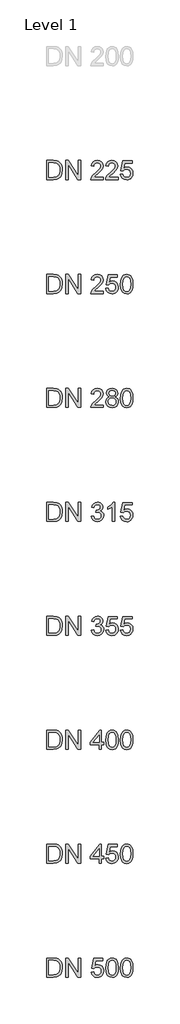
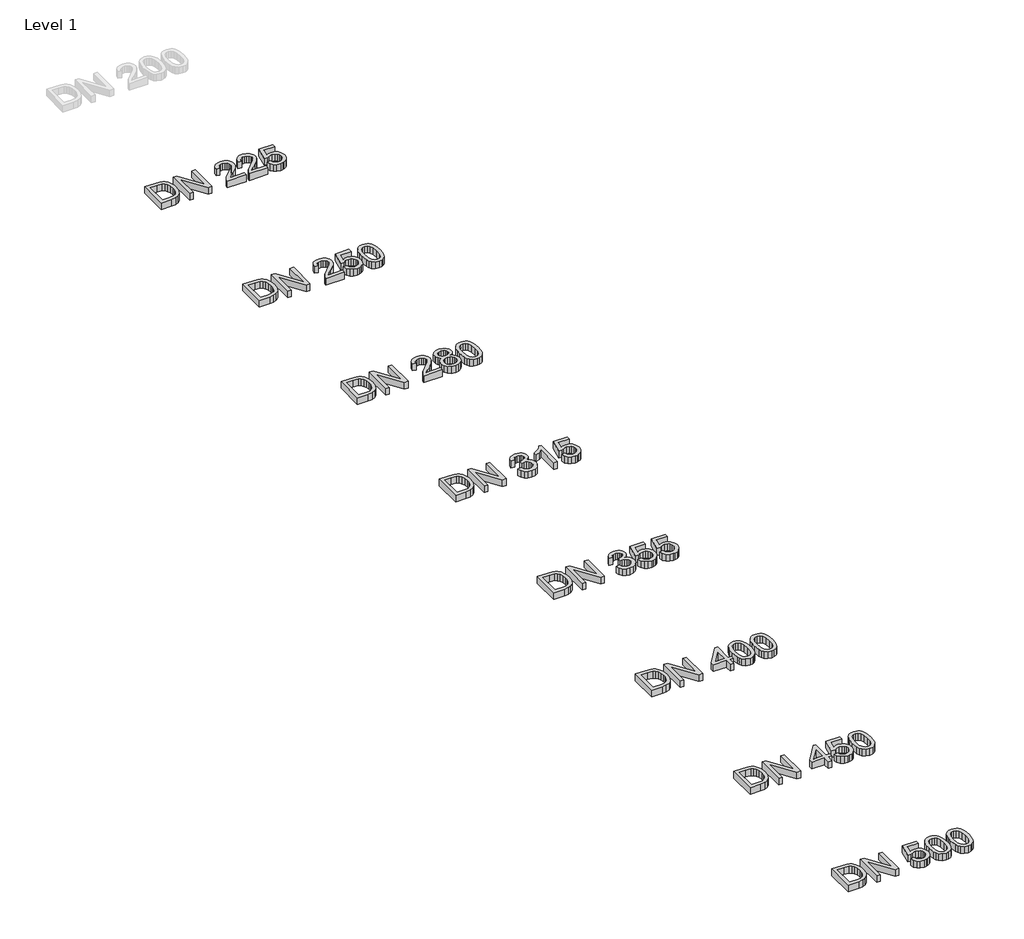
# One storey, part 11 of 26: 8 proxies.
"""IFC4 building model written with IfcOpenShell, lengths in millimetres."""

from ifc_helpers import new_model, si_unit, origin, origin_with_axes, place, context, project, spatial, polyline, outline, extrude, element, save

model = new_model("IFC4")

# Units and contexts
model_context = context("Model", 3, world=origin())
ifc_project = project(units=[si_unit("LENGTHUNIT", "METRE", prefix="MILLI")], contexts=[model_context])

# Site, building, storey
site = spatial("IfcSite", under=ifc_project)
building = spatial("IfcBuilding", under=site)
storey = spatial("IfcBuildingStorey", under=building, Name="Level 1", Elevation=0.0)

# Proxies
placement = place(None, origin())
element("IfcBuildingElementProxy", 1, Name="200mm Arial", ObjectType="200mm Arial", at=placement, inside=storey, context=model_context, shape_type="SweptSolid", body=[
    extrude(outline(polyline([(-19491.3116028, -54013.949573), (-19491.3116028, -53813.0369527), (-19422.0026349, -53813.0369527), (-19386.1464031, -53815.9309577), (-19370.1312736, -53821.5105013), (-19356.6177416, -53830.302881), (-19342.724065, -53845.606772), (-19332.8280393, -53864.6385338), (-19326.9051392, -53887.0302846), (-19324.9308391, -53912.4141423), (-19330.2773908, -53952.9547382), (-19344.0116519, -53982.2136195), (-19362.3567008, -54000.436041), (-19386.3671323, -54010.5160077), (-19418.6671715, -54013.949573), (-19491.3116028, -54013.949573)]), holes=[polyline([(-19466.1975253, -53988.8354954), (-19421.7573803, -53988.8354954), (-19389.4328156, -53985.2057264), (-19370.7934612, -53974.9540815), (-19362.0685265, -53964.0831685), (-19355.5140957, -53950.0116822), (-19351.4122114, -53932.6783089), (-19350.0449167, -53912.0217348), (-19352.7243239, -53884.6513144), (-19360.7625455, -53864.4423301), (-19372.6390025, -53850.5609162), (-19386.8331162, -53842.1732067), (-19422.4440933, -53838.1510302), (-19466.1975253, -53838.1510302), (-19466.1975253, -53988.8354954)])]), origin_with_axes(), (0.0, 0.0, 1.0), 50.0),
    extrude(outline(polyline([(-19290.3989825, -54013.949573), (-19290.3989825, -53813.0369527), (-19263.5190714, -53813.0369527), (-19158.5500754, -53972.2072292), (-19158.5500754, -53813.0369527), (-19133.4359979, -53813.0369527), (-19133.4359979, -54013.949573), (-19160.315909, -54013.949573), (-19265.284905, -53854.7302454), (-19265.284905, -54013.949573), (-19290.3989825, -54013.949573)])), origin_with_axes(), (0.0, 0.0, 1.0), 50.0),
    extrude(outline(polyline([(-18891.7130016, -53988.8354954), (-18891.7130016, -54013.949573), (-19023.5619087, -54013.949573), (-19020.8641074, -53996.6345937), (-19005.6092673, -53969.9754118), (-18974.1676195, -53940.8636832), (-18930.806595, -53899.0232377), (-18922.6764029, -53884.6022634), (-18919.9663388, -53870.5736967), (-18922.5231187, -53857.9982638), (-18930.1934583, -53847.5442838), (-18941.9840762, -53840.4993436), (-18956.9016912, -53838.1510302), (-18972.5673328, -53840.4441613), (-18984.7380955, -53847.3235546), (-18992.5923761, -53858.2496499), (-18995.3085714, -53872.6828868), (-19020.422649, -53869.5436271), (-19014.334202, -53845.2511527), (-19001.1701579, -53827.5069778), (-18981.6172299, -53816.6544589), (-18956.3621309, -53813.0369527), (-18930.9230909, -53817.0591291), (-18911.4069511, -53829.1256586), (-18898.9909337, -53847.1518763), (-18894.8522613, -53869.0531178), (-18899.3158962, -53892.8673456), (-18914.1538033, -53917.4909138), (-18950.1326624, -53951.9001431), (-18979.0236618, -53976.0577275), (-18990.3544272, -53988.8354954), (-18891.7130016, -53988.8354954)])), origin_with_axes(), (0.0, 0.0, 1.0), 50.0),
    extrude(outline(polyline([(-18866.5989241, -53960.5821582), (-18841.4848465, -53957.4428985), (-18836.8740589, -53972.5199289), (-18828.8297059, -53983.3172655), (-18817.3885758, -53989.8103827), (-18802.5874569, -53991.9747551), (-18784.5857646, -53988.9642541), (-18771.0967581, -53979.9327511), (-18762.6722604, -53965.9225785), (-18759.8640945, -53947.9760685), (-18762.4944508, -53931.0780222), (-18770.3855196, -53918.1531014), (-18783.5986146, -53909.9493329), (-18802.1950494, -53907.2147434), (-18824.2434437, -53911.5802764), (-18838.3455868, -53922.9110419), (-18863.4596644, -53919.7717822), (-18841.4848465, -53816.1762123), (-18744.1677961, -53816.1762123), (-18744.1677961, -53841.2902899), (-18821.1777604, -53841.2902899), (-18831.9199147, -53896.619742), (-18813.979536, -53885.7304349), (-18795.1807661, -53882.1006659), (-18771.7160261, -53886.601089), (-18752.2366745, -53900.1023582), (-18739.1216814, -53920.6792244), (-18734.750017, -53946.4064386), (-18738.6863543, -53971.5205162), (-18750.4953664, -53993.0048247), (-18760.9309523, -54003.5415782), (-18773.1078464, -54011.0678307), (-18787.0260485, -54015.5835821), (-18802.6855588, -54017.0888326), (-18827.3520466, -54013.2199403), (-18847.0030765, -54001.6132634), (-18860.4736888, -53983.6177025), (-18866.5989241, -53960.5821582)])), origin_with_axes(), (0.0, 0.0, 1.0), 50.0),
    extrude(outline(polyline([(-18712.7751992, -53915.1119436), (-18710.9296578, -53882.9529258), (-18705.3930338, -53857.3054194), (-18696.2205094, -53837.7770168), (-18683.4672669, -53823.9753106), (-18667.0413358, -53815.7715422), (-18646.8507456, -53813.0369527), (-18631.3751764, -53814.6556334), (-18617.5182879, -53819.5116758), (-18605.930005, -53827.4150073), (-18597.2602527, -53838.1755557), (-18585.4880288, -53867.9004209), (-18580.9262921, -53915.1119436), (-18582.7534393, -53947.0870203), (-18588.2348811, -53972.6732131), (-18597.3522232, -53992.2200098), (-18610.0870716, -54006.0768983), (-18626.5497909, -54014.335849), (-18646.8507456, -54017.0888326), (-18672.9458418, -54012.3063667), (-18692.7624186, -53997.9589689), (-18701.5180101, -53982.8298218), (-18707.772004, -53963.9789353), (-18712.7751992, -53915.1119436)]), holes=[polyline([(-18687.6611216, -53915.0628927), (-18684.7180657, -53954.5672876), (-18675.8888978, -53977.4311536), (-18662.7432478, -53988.3388547), (-18646.8507456, -53991.9747551), (-18630.9582434, -53988.326592), (-18617.8125935, -53977.3821026), (-18608.9834256, -53954.5059739), (-18606.0403696, -53915.0628927), (-18608.8853237, -53876.4475459), (-18617.420186, -53853.4058703), (-18630.5413105, -53841.9647402), (-18647.1450512, -53838.1510302), (-18662.8658751, -53841.5110191), (-18675.4964903, -53851.5909857), (-18684.6199638, -53876.0674012), (-18687.6611216, -53915.0628927)])]), origin_with_axes(), (0.0, 0.0, 1.0), 50.0),
])
element("IfcBuildingElementProxy", 2, Name="200mm Arial", ObjectType="200mm Arial", at=placement, inside=storey, context=model_context, shape_type="SweptSolid", body=[
    extrude(outline(polyline([(-19491.3116028, -56413.949573), (-19491.3116028, -56213.0369527), (-19422.0026349, -56213.0369527), (-19386.1464031, -56215.9309577), (-19370.1312736, -56221.5105013), (-19356.6177416, -56230.302881), (-19342.724065, -56245.606772), (-19332.8280393, -56264.6385338), (-19326.9051392, -56287.0302846), (-19324.9308391, -56312.4141423), (-19330.2773908, -56352.9547382), (-19344.0116519, -56382.2136195), (-19362.3567008, -56400.436041), (-19386.3671323, -56410.5160077), (-19418.6671715, -56413.949573), (-19491.3116028, -56413.949573)]), holes=[polyline([(-19466.1975253, -56388.8354954), (-19421.7573803, -56388.8354954), (-19389.4328156, -56385.2057264), (-19370.7934612, -56374.9540815), (-19362.0685265, -56364.0831685), (-19355.5140957, -56350.0116822), (-19351.4122114, -56332.6783089), (-19350.0449167, -56312.0217348), (-19352.7243239, -56284.6513144), (-19360.7625455, -56264.4423301), (-19372.6390025, -56250.5609162), (-19386.8331162, -56242.1732067), (-19422.4440933, -56238.1510302), (-19466.1975253, -56238.1510302), (-19466.1975253, -56388.8354954)])]), origin_with_axes(), (0.0, 0.0, 1.0), 50.0),
    extrude(outline(polyline([(-19290.3989825, -56413.949573), (-19290.3989825, -56213.0369527), (-19263.5190714, -56213.0369527), (-19158.5500754, -56372.2072292), (-19158.5500754, -56213.0369527), (-19133.4359979, -56213.0369527), (-19133.4359979, -56413.949573), (-19160.315909, -56413.949573), (-19265.284905, -56254.7302454), (-19265.284905, -56413.949573), (-19290.3989825, -56413.949573)])), origin_with_axes(), (0.0, 0.0, 1.0), 50.0),
    extrude(outline(polyline([(-19020.422649, -56360.5821582), (-18995.3085714, -56357.4428985), (-18989.6861083, -56373.2250361), (-18981.451683, -56383.8813512), (-18970.2006253, -56389.9514041), (-18955.528265, -56391.9747551), (-18938.3113877, -56389.1911147), (-18925.0185849, -56380.8401934), (-18916.5205108, -56368.3812565), (-18913.6878195, -56353.2735692), (-18916.4959853, -56338.9323028), (-18924.920483, -56327.3011004), (-18937.6737255, -56319.5939726), (-18953.4681259, -56317.02493), (-18971.0774107, -56319.7717822), (-18968.2815075, -56294.6577047), (-18964.2593311, -56294.9520102), (-18949.2129575, -56293.1493885), (-18935.7607392, -56287.7415231), (-18926.2693837, -56278.5935242), (-18923.1055985, -56265.5705016), (-18925.3987296, -56254.7241141), (-18932.2781229, -56245.925603), (-18942.7750225, -56240.0946734), (-18955.9206725, -56238.1510302), (-18969.0908479, -56240.1130675), (-18979.8575277, -56245.9991794), (-18987.7179396, -56255.809366), (-18992.1693118, -56269.5436271), (-19017.2833893, -56266.4043674), (-19009.8889612, -56243.8532011), (-18996.7310485, -56227.0164685), (-18978.7293562, -56216.5318316), (-18956.8035893, -56213.0369527), (-18941.0153203, -56214.7598667), (-18926.5146384, -56219.9286087), (-18914.2886934, -56228.0833263), (-18905.3246354, -56238.7641669), (-18899.8247996, -56251.0698196), (-18897.991521, -56264.0989736), (-18899.7328291, -56276.2390794), (-18904.9567534, -56287.2510138), (-18913.5897176, -56296.6320047), (-18925.5581452, -56303.87928), (-18909.8373212, -56310.2313758), (-18898.1877247, -56321.0471064), (-18890.9772376, -56335.7378608), (-18888.5737419, -56353.7150276), (-18893.3807333, -56378.191443), (-18907.8017075, -56398.645682), (-18929.5680589, -56412.478045), (-18956.4111818, -56417.0888326), (-18980.6913935, -56413.1524953), (-19000.4589194, -56401.3434833), (-19014.2054433, -56383.2804773), (-19020.422649, -56360.5821582)])), origin_with_axes(), (0.0, 0.0, 1.0), 50.0),
    extrude(outline(polyline([(-18772.4211333, -56413.949573), (-18797.5352108, -56413.949573), (-18797.5352108, -56257.3789958), (-18821.3249132, -56274.3260931), (-18847.7633659, -56287.0057592), (-18847.7633659, -56263.2651077), (-18810.9506409, -56239.769711), (-18797.4800285, -56226.1948653), (-18788.6079411, -56213.0369527), (-18772.4211333, -56213.0369527), (-18772.4211333, -56413.949573)])), origin_with_axes(), (0.0, 0.0, 1.0), 50.0),
    extrude(outline(polyline([(-18712.7751992, -56360.5821582), (-18687.6611216, -56357.4428985), (-18683.0503339, -56372.5199289), (-18675.005981, -56383.3172655), (-18663.5648509, -56389.8103827), (-18648.763732, -56391.9747551), (-18630.7620397, -56388.9642541), (-18617.2730332, -56379.9327511), (-18608.8485355, -56365.9225785), (-18606.0403696, -56347.9760685), (-18608.6707259, -56331.0780222), (-18616.5617947, -56318.1531014), (-18629.7748897, -56309.9493329), (-18648.3713245, -56307.2147434), (-18670.4197188, -56311.5802764), (-18684.5218619, -56322.9110419), (-18709.6359395, -56319.7717822), (-18687.6611216, -56216.1762123), (-18590.3440712, -56216.1762123), (-18590.3440712, -56241.2902899), (-18667.3540355, -56241.2902899), (-18678.0961897, -56296.619742), (-18660.1558111, -56285.7304349), (-18641.3570412, -56282.1006659), (-18617.8923012, -56286.601089), (-18598.4129496, -56300.1023582), (-18585.2979565, -56320.6792244), (-18580.9262921, -56346.4064386), (-18584.8626294, -56371.5205162), (-18596.6716415, -56393.0048247), (-18607.1072274, -56403.5415782), (-18619.2841214, -56411.0678307), (-18633.2023236, -56415.5835821), (-18648.8618339, -56417.0888326), (-18673.5283216, -56413.2199403), (-18693.1793515, -56401.6132634), (-18706.6499639, -56383.6177025), (-18712.7751992, -56360.5821582)])), origin_with_axes(), (0.0, 0.0, 1.0), 50.0),
])
element("IfcBuildingElementProxy", 3, Name="200mm Arial", ObjectType="200mm Arial", at=placement, inside=storey, context=model_context, shape_type="SweptSolid", body=[
    extrude(outline(polyline([(-19491.3116028, -58813.949573), (-19491.3116028, -58613.0369527), (-19422.0026349, -58613.0369527), (-19386.1464031, -58615.9309577), (-19370.1312736, -58621.5105013), (-19356.6177416, -58630.302881), (-19342.724065, -58645.606772), (-19332.8280393, -58664.6385338), (-19326.9051392, -58687.0302846), (-19324.9308391, -58712.4141423), (-19330.2773908, -58752.9547382), (-19344.0116519, -58782.2136195), (-19362.3567008, -58800.436041), (-19386.3671323, -58810.5160077), (-19418.6671715, -58813.949573), (-19491.3116028, -58813.949573)]), holes=[polyline([(-19466.1975253, -58788.8354954), (-19421.7573803, -58788.8354954), (-19389.4328156, -58785.2057264), (-19370.7934612, -58774.9540815), (-19362.0685265, -58764.0831685), (-19355.5140957, -58750.0116822), (-19351.4122114, -58732.6783089), (-19350.0449167, -58712.0217348), (-19352.7243239, -58684.6513144), (-19360.7625455, -58664.4423301), (-19372.6390025, -58650.5609162), (-19386.8331162, -58642.1732067), (-19422.4440933, -58638.1510302), (-19466.1975253, -58638.1510302), (-19466.1975253, -58788.8354954)])]), origin_with_axes(), (0.0, 0.0, 1.0), 50.0),
    extrude(outline(polyline([(-19290.3989825, -58813.949573), (-19290.3989825, -58613.0369527), (-19263.5190714, -58613.0369527), (-19158.5500754, -58772.2072292), (-19158.5500754, -58613.0369527), (-19133.4359979, -58613.0369527), (-19133.4359979, -58813.949573), (-19160.315909, -58813.949573), (-19265.284905, -58654.7302454), (-19265.284905, -58813.949573), (-19290.3989825, -58813.949573)])), origin_with_axes(), (0.0, 0.0, 1.0), 50.0),
    extrude(outline(polyline([(-18938.801897, -58813.949573), (-18938.801897, -58766.8606776), (-19029.8404281, -58766.8606776), (-19029.8404281, -58741.7466), (-18932.5233776, -58616.1762123), (-18913.6878195, -58616.1762123), (-18913.6878195, -58741.7466), (-18888.5737419, -58741.7466), (-18888.5737419, -58766.8606776), (-18913.6878195, -58766.8606776), (-18913.6878195, -58813.949573), (-18938.801897, -58813.949573)]), holes=[polyline([(-18938.801897, -58741.7466), (-18938.801897, -58664.1480245), (-18998.9383405, -58741.7466), (-18938.801897, -58741.7466)])]), origin_with_axes(), (0.0, 0.0, 1.0), 50.0),
    extrude(outline(polyline([(-18866.5989241, -58715.1119436), (-18864.7533827, -58682.9529258), (-18859.2167587, -58657.3054194), (-18850.0442343, -58637.7770168), (-18837.2909918, -58623.9753106), (-18820.8650607, -58615.7715422), (-18800.6744705, -58613.0369527), (-18785.1989013, -58614.6556334), (-18771.3420128, -58619.5116758), (-18759.7537299, -58627.4150073), (-18751.0839776, -58638.1755557), (-18739.3117537, -58667.9004209), (-18734.750017, -58715.1119436), (-18736.5771642, -58747.0870203), (-18742.058606, -58772.6732131), (-18751.1759481, -58792.2200098), (-18763.9107965, -58806.0768983), (-18780.3735158, -58814.335849), (-18800.6744705, -58817.0888326), (-18826.7695667, -58812.3063667), (-18846.5861435, -58797.9589689), (-18855.341735, -58782.8298218), (-18861.5957289, -58763.9789353), (-18866.5989241, -58715.1119436)]), holes=[polyline([(-18841.4848465, -58715.0628927), (-18838.5417906, -58754.5672876), (-18829.7126227, -58777.4311536), (-18816.5669727, -58788.3388547), (-18800.6744705, -58791.9747551), (-18784.7819683, -58788.326592), (-18771.6363184, -58777.3821026), (-18762.8071505, -58754.5059739), (-18759.8640945, -58715.0628927), (-18762.7090486, -58676.4475459), (-18771.2439109, -58653.4058703), (-18784.3650354, -58641.9647402), (-18800.9687761, -58638.1510302), (-18816.6896001, -58641.5110191), (-18829.3202152, -58651.5909857), (-18838.4436887, -58676.0674012), (-18841.4848465, -58715.0628927)])]), origin_with_axes(), (0.0, 0.0, 1.0), 50.0),
    extrude(outline(polyline([(-18712.7751992, -58715.1119436), (-18710.9296578, -58682.9529258), (-18705.3930338, -58657.3054194), (-18696.2205094, -58637.7770168), (-18683.4672669, -58623.9753106), (-18667.0413358, -58615.7715422), (-18646.8507456, -58613.0369527), (-18631.3751764, -58614.6556334), (-18617.5182879, -58619.5116758), (-18605.930005, -58627.4150073), (-18597.2602527, -58638.1755557), (-18585.4880288, -58667.9004209), (-18580.9262921, -58715.1119436), (-18582.7534393, -58747.0870203), (-18588.2348811, -58772.6732131), (-18597.3522232, -58792.2200098), (-18610.0870716, -58806.0768983), (-18626.5497909, -58814.335849), (-18646.8507456, -58817.0888326), (-18672.9458418, -58812.3063667), (-18692.7624186, -58797.9589689), (-18701.5180101, -58782.8298218), (-18707.772004, -58763.9789353), (-18712.7751992, -58715.1119436)]), holes=[polyline([(-18687.6611216, -58715.0628927), (-18684.7180657, -58754.5672876), (-18675.8888978, -58777.4311536), (-18662.7432478, -58788.3388547), (-18646.8507456, -58791.9747551), (-18630.9582434, -58788.326592), (-18617.8125935, -58777.3821026), (-18608.9834256, -58754.5059739), (-18606.0403696, -58715.0628927), (-18608.8853237, -58676.4475459), (-18617.420186, -58653.4058703), (-18630.5413105, -58641.9647402), (-18647.1450512, -58638.1510302), (-18662.8658751, -58641.5110191), (-18675.4964903, -58651.5909857), (-18684.6199638, -58676.0674012), (-18687.6611216, -58715.0628927)])]), origin_with_axes(), (0.0, 0.0, 1.0), 50.0),
])
element("IfcBuildingElementProxy", 4, Name="200mm Arial", ObjectType="200mm Arial", at=placement, inside=storey, context=model_context, shape_type="SweptSolid", body=[
    extrude(outline(polyline([(-19491.3116028, -52813.949573), (-19491.3116028, -52613.0369527), (-19422.0026349, -52613.0369527), (-19386.1464031, -52615.9309577), (-19370.1312736, -52621.5105013), (-19356.6177416, -52630.302881), (-19342.724065, -52645.606772), (-19332.8280393, -52664.6385338), (-19326.9051392, -52687.0302846), (-19324.9308391, -52712.4141423), (-19330.2773908, -52752.9547382), (-19344.0116519, -52782.2136195), (-19362.3567008, -52800.436041), (-19386.3671323, -52810.5160077), (-19418.6671715, -52813.949573), (-19491.3116028, -52813.949573)]), holes=[polyline([(-19466.1975253, -52788.8354954), (-19421.7573803, -52788.8354954), (-19389.4328156, -52785.2057264), (-19370.7934612, -52774.9540815), (-19362.0685265, -52764.0831685), (-19355.5140957, -52750.0116822), (-19351.4122114, -52732.6783089), (-19350.0449167, -52712.0217348), (-19352.7243239, -52684.6513144), (-19360.7625455, -52664.4423301), (-19372.6390025, -52650.5609162), (-19386.8331162, -52642.1732067), (-19422.4440933, -52638.1510302), (-19466.1975253, -52638.1510302), (-19466.1975253, -52788.8354954)])]), origin_with_axes(), (0.0, 0.0, 1.0), 50.0),
    extrude(outline(polyline([(-19290.3989825, -52813.949573), (-19290.3989825, -52613.0369527), (-19263.5190714, -52613.0369527), (-19158.5500754, -52772.2072292), (-19158.5500754, -52613.0369527), (-19133.4359979, -52613.0369527), (-19133.4359979, -52813.949573), (-19160.315909, -52813.949573), (-19265.284905, -52654.7302454), (-19265.284905, -52813.949573), (-19290.3989825, -52813.949573)])), origin_with_axes(), (0.0, 0.0, 1.0), 50.0),
    extrude(outline(polyline([(-18891.7130016, -52788.8354954), (-18891.7130016, -52813.949573), (-19023.5619087, -52813.949573), (-19020.8641074, -52796.6345937), (-19005.6092673, -52769.9754118), (-18974.1676195, -52740.8636832), (-18930.806595, -52699.0232377), (-18922.6764029, -52684.6022634), (-18919.9663388, -52670.5736967), (-18922.5231187, -52657.9982638), (-18930.1934583, -52647.5442838), (-18941.9840762, -52640.4993436), (-18956.9016912, -52638.1510302), (-18972.5673328, -52640.4441613), (-18984.7380955, -52647.3235546), (-18992.5923761, -52658.2496499), (-18995.3085714, -52672.6828868), (-19020.422649, -52669.5436271), (-19014.334202, -52645.2511527), (-19001.1701579, -52627.5069778), (-18981.6172299, -52616.6544589), (-18956.3621309, -52613.0369527), (-18930.9230909, -52617.0591291), (-18911.4069511, -52629.1256586), (-18898.9909337, -52647.1518763), (-18894.8522613, -52669.0531178), (-18899.3158962, -52692.8673456), (-18914.1538033, -52717.4909138), (-18950.1326624, -52751.9001431), (-18979.0236618, -52776.0577275), (-18990.3544272, -52788.8354954), (-18891.7130016, -52788.8354954)])), origin_with_axes(), (0.0, 0.0, 1.0), 50.0),
    extrude(outline(polyline([(-18737.8892767, -52788.8354954), (-18737.8892767, -52813.949573), (-18869.7381838, -52813.949573), (-18867.0403825, -52796.6345937), (-18851.7855424, -52769.9754118), (-18820.3438945, -52740.8636832), (-18776.98287, -52699.0232377), (-18768.852678, -52684.6022634), (-18766.1426139, -52670.5736967), (-18768.6993938, -52657.9982638), (-18776.3697334, -52647.5442838), (-18788.1603513, -52640.4993436), (-18803.0779662, -52638.1510302), (-18818.7436079, -52640.4441613), (-18830.9143705, -52647.3235546), (-18838.7686511, -52658.2496499), (-18841.4848465, -52672.6828868), (-18866.5989241, -52669.5436271), (-18860.510477, -52645.2511527), (-18847.346433, -52627.5069778), (-18827.7935049, -52616.6544589), (-18802.538406, -52613.0369527), (-18777.099366, -52617.0591291), (-18757.5832262, -52629.1256586), (-18745.1672088, -52647.1518763), (-18741.0285364, -52669.0531178), (-18745.4921713, -52692.8673456), (-18760.3300784, -52717.4909138), (-18796.3089375, -52751.9001431), (-18825.1999369, -52776.0577275), (-18836.5307023, -52788.8354954), (-18737.8892767, -52788.8354954)])), origin_with_axes(), (0.0, 0.0, 1.0), 50.0),
    extrude(outline(polyline([(-18712.7751992, -52760.5821582), (-18687.6611216, -52757.4428985), (-18683.0503339, -52772.5199289), (-18675.005981, -52783.3172655), (-18663.5648509, -52789.8103827), (-18648.763732, -52791.9747551), (-18630.7620397, -52788.9642541), (-18617.2730332, -52779.9327511), (-18608.8485355, -52765.9225785), (-18606.0403696, -52747.9760685), (-18608.6707259, -52731.0780222), (-18616.5617947, -52718.1531014), (-18629.7748897, -52709.9493329), (-18648.3713245, -52707.2147434), (-18670.4197188, -52711.5802764), (-18684.5218619, -52722.9110419), (-18709.6359395, -52719.7717822), (-18687.6611216, -52616.1762123), (-18590.3440712, -52616.1762123), (-18590.3440712, -52641.2902899), (-18667.3540355, -52641.2902899), (-18678.0961897, -52696.619742), (-18660.1558111, -52685.7304349), (-18641.3570412, -52682.1006659), (-18617.8923012, -52686.601089), (-18598.4129496, -52700.1023582), (-18585.2979565, -52720.6792244), (-18580.9262921, -52746.4064386), (-18584.8626294, -52771.5205162), (-18596.6716415, -52793.0048247), (-18607.1072274, -52803.5415782), (-18619.2841214, -52811.0678307), (-18633.2023236, -52815.5835821), (-18648.8618339, -52817.0888326), (-18673.5283216, -52813.2199403), (-18693.1793515, -52801.6132634), (-18706.6499639, -52783.6177025), (-18712.7751992, -52760.5821582)])), origin_with_axes(), (0.0, 0.0, 1.0), 50.0),
])
element("IfcBuildingElementProxy", 5, Name="200mm Arial", ObjectType="200mm Arial", at=placement, inside=storey, context=model_context, shape_type="SweptSolid", body=[
    extrude(outline(polyline([(-19491.3116028, -55213.949573), (-19491.3116028, -55013.0369527), (-19422.0026349, -55013.0369527), (-19386.1464031, -55015.9309577), (-19370.1312736, -55021.5105013), (-19356.6177416, -55030.302881), (-19342.724065, -55045.606772), (-19332.8280393, -55064.6385338), (-19326.9051392, -55087.0302846), (-19324.9308391, -55112.4141423), (-19330.2773908, -55152.9547382), (-19344.0116519, -55182.2136195), (-19362.3567008, -55200.436041), (-19386.3671323, -55210.5160077), (-19418.6671715, -55213.949573), (-19491.3116028, -55213.949573)]), holes=[polyline([(-19466.1975253, -55188.8354954), (-19421.7573803, -55188.8354954), (-19389.4328156, -55185.2057264), (-19370.7934612, -55174.9540815), (-19362.0685265, -55164.0831685), (-19355.5140957, -55150.0116822), (-19351.4122114, -55132.6783089), (-19350.0449167, -55112.0217348), (-19352.7243239, -55084.6513144), (-19360.7625455, -55064.4423301), (-19372.6390025, -55050.5609162), (-19386.8331162, -55042.1732067), (-19422.4440933, -55038.1510302), (-19466.1975253, -55038.1510302), (-19466.1975253, -55188.8354954)])]), origin_with_axes(), (0.0, 0.0, 1.0), 50.0),
    extrude(outline(polyline([(-19290.3989825, -55213.949573), (-19290.3989825, -55013.0369527), (-19263.5190714, -55013.0369527), (-19158.5500754, -55172.2072292), (-19158.5500754, -55013.0369527), (-19133.4359979, -55013.0369527), (-19133.4359979, -55213.949573), (-19160.315909, -55213.949573), (-19265.284905, -55054.7302454), (-19265.284905, -55213.949573), (-19290.3989825, -55213.949573)])), origin_with_axes(), (0.0, 0.0, 1.0), 50.0),
    extrude(outline(polyline([(-18891.7130016, -55188.8354954), (-18891.7130016, -55213.949573), (-19023.5619087, -55213.949573), (-19020.8641074, -55196.6345937), (-19005.6092673, -55169.9754118), (-18974.1676195, -55140.8636832), (-18930.806595, -55099.0232377), (-18922.6764029, -55084.6022634), (-18919.9663388, -55070.5736967), (-18922.5231187, -55057.9982638), (-18930.1934583, -55047.5442838), (-18941.9840762, -55040.4993436), (-18956.9016912, -55038.1510302), (-18972.5673328, -55040.4441613), (-18984.7380955, -55047.3235546), (-18992.5923761, -55058.2496499), (-18995.3085714, -55072.6828868), (-19020.422649, -55069.5436271), (-19014.334202, -55045.2511527), (-19001.1701579, -55027.5069778), (-18981.6172299, -55016.6544589), (-18956.3621309, -55013.0369527), (-18930.9230909, -55017.0591291), (-18911.4069511, -55029.1256586), (-18898.9909337, -55047.1518763), (-18894.8522613, -55069.0531178), (-18899.3158962, -55092.8673456), (-18914.1538033, -55117.4909138), (-18950.1326624, -55151.9001431), (-18979.0236618, -55176.0577275), (-18990.3544272, -55188.8354954), (-18891.7130016, -55188.8354954)])), origin_with_axes(), (0.0, 0.0, 1.0), 50.0),
    extrude(outline(polyline([(-18830.0069283, -55103.2906688), (-18843.4530152, -55096.6687929), (-18852.8891884, -55087.6924722), (-18858.4626006, -55076.5456478), (-18860.3204047, -55063.4122605), (-18856.2737027, -55043.7796247), (-18844.1335969, -55027.5560287), (-18825.2612505, -55016.6667217), (-18801.0178271, -55013.0369527), (-18776.6272508, -55016.7525608), (-18757.5096498, -55027.8993853), (-18745.1488147, -55044.3804986), (-18741.0285364, -55064.0989736), (-18742.861815, -55076.8092965), (-18748.3616508, -55087.7660486), (-18757.5893575, -55096.687187), (-18770.6062488, -55103.2906688), (-18755.1490736, -55111.255314), (-18743.8980159, -55122.9846183), (-18737.0370167, -55137.9144959), (-18734.750017, -55155.4808612), (-18739.2872283, -55179.4912927), (-18752.8988621, -55199.332395), (-18773.9171868, -55212.6497232), (-18800.6744705, -55217.0888326), (-18827.4317543, -55212.6313291), (-18848.450079, -55199.2588186), (-18862.0617128, -55179.227644), (-18866.5989241, -55154.7941481), (-18864.2199538, -55136.5472012), (-18857.0830431, -55121.5376158), (-18845.5560739, -55110.2804267), (-18830.0069283, -55103.2906688)]), holes=[polyline([(-18841.4848465, -55153.9112313), (-18837.2909918, -55172.8203659), (-18831.4845876, -55180.9321639), (-18822.4530846, -55186.97156), (-18800.4782668, -55191.9747551), (-18783.3840168, -55189.3443988), (-18770.5571979, -55181.45333), (-18762.5373704, -55169.5032966), (-18759.8640945, -55154.6960463), (-18762.6232095, -55139.6374099), (-18770.9005544, -55127.4237277), (-18784.0216789, -55119.3303238), (-18801.3121327, -55116.6325225), (-18818.1672594, -55119.2935356), (-18830.8653196, -55127.2765749), (-18838.8299648, -55139.2572652), (-18841.4848465, -55153.9112313)]), polyline([(-18835.2063271, -55064.1480245), (-18832.9806411, -55075.110908), (-18826.3035829, -55083.8664995), (-18815.3713562, -55089.6054586), (-18800.3801649, -55091.518445), (-18785.7384615, -55089.6177213), (-18774.9717818, -55083.9155504), (-18768.3499059, -55075.4542645), (-18766.1426139, -55065.276196), (-18768.4234823, -55054.7118513), (-18775.2660874, -55045.974654), (-18786.1799199, -55040.1069361), (-18800.6744705, -55038.1510302), (-18815.2609916, -55040.0640166), (-18826.1564301, -55045.8029757), (-18832.9438529, -55054.2152106), (-18835.2063271, -55064.1480245)])]), origin_with_axes(), (0.0, 0.0, 1.0), 50.0),
    extrude(outline(polyline([(-18712.7751992, -55115.1119436), (-18710.9296578, -55082.9529258), (-18705.3930338, -55057.3054194), (-18696.2205094, -55037.7770168), (-18683.4672669, -55023.9753106), (-18667.0413358, -55015.7715422), (-18646.8507456, -55013.0369527), (-18631.3751764, -55014.6556334), (-18617.5182879, -55019.5116758), (-18605.930005, -55027.4150073), (-18597.2602527, -55038.1755557), (-18585.4880288, -55067.9004209), (-18580.9262921, -55115.1119436), (-18582.7534393, -55147.0870203), (-18588.2348811, -55172.6732131), (-18597.3522232, -55192.2200098), (-18610.0870716, -55206.0768983), (-18626.5497909, -55214.335849), (-18646.8507456, -55217.0888326), (-18672.9458418, -55212.3063667), (-18692.7624186, -55197.9589689), (-18701.5180101, -55182.8298218), (-18707.772004, -55163.9789353), (-18712.7751992, -55115.1119436)]), holes=[polyline([(-18687.6611216, -55115.0628927), (-18684.7180657, -55154.5672876), (-18675.8888978, -55177.4311536), (-18662.7432478, -55188.3388547), (-18646.8507456, -55191.9747551), (-18630.9582434, -55188.326592), (-18617.8125935, -55177.3821026), (-18608.9834256, -55154.5059739), (-18606.0403696, -55115.0628927), (-18608.8853237, -55076.4475459), (-18617.420186, -55053.4058703), (-18630.5413105, -55041.9647402), (-18647.1450512, -55038.1510302), (-18662.8658751, -55041.5110191), (-18675.4964903, -55051.5909857), (-18684.6199638, -55076.0674012), (-18687.6611216, -55115.0628927)])]), origin_with_axes(), (0.0, 0.0, 1.0), 50.0),
])
element("IfcBuildingElementProxy", 6, Name="200mm Arial", ObjectType="200mm Arial", at=placement, inside=storey, context=model_context, shape_type="SweptSolid", body=[
    extrude(outline(polyline([(-19491.3116028, -57613.949573), (-19491.3116028, -57413.0369527), (-19422.0026349, -57413.0369527), (-19386.1464031, -57415.9309577), (-19370.1312736, -57421.5105013), (-19356.6177416, -57430.302881), (-19342.724065, -57445.606772), (-19332.8280393, -57464.6385338), (-19326.9051392, -57487.0302846), (-19324.9308391, -57512.4141423), (-19330.2773908, -57552.9547382), (-19344.0116519, -57582.2136195), (-19362.3567008, -57600.436041), (-19386.3671323, -57610.5160077), (-19418.6671715, -57613.949573), (-19491.3116028, -57613.949573)]), holes=[polyline([(-19466.1975253, -57588.8354954), (-19421.7573803, -57588.8354954), (-19389.4328156, -57585.2057264), (-19370.7934612, -57574.9540815), (-19362.0685265, -57564.0831685), (-19355.5140957, -57550.0116822), (-19351.4122114, -57532.6783089), (-19350.0449167, -57512.0217348), (-19352.7243239, -57484.6513144), (-19360.7625455, -57464.4423301), (-19372.6390025, -57450.5609162), (-19386.8331162, -57442.1732067), (-19422.4440933, -57438.1510302), (-19466.1975253, -57438.1510302), (-19466.1975253, -57588.8354954)])]), origin_with_axes(), (0.0, 0.0, 1.0), 50.0),
    extrude(outline(polyline([(-19290.3989825, -57613.949573), (-19290.3989825, -57413.0369527), (-19263.5190714, -57413.0369527), (-19158.5500754, -57572.2072292), (-19158.5500754, -57413.0369527), (-19133.4359979, -57413.0369527), (-19133.4359979, -57613.949573), (-19160.315909, -57613.949573), (-19265.284905, -57454.7302454), (-19265.284905, -57613.949573), (-19290.3989825, -57613.949573)])), origin_with_axes(), (0.0, 0.0, 1.0), 50.0),
    extrude(outline(polyline([(-19020.422649, -57560.5821582), (-18995.3085714, -57557.4428985), (-18989.6861083, -57573.2250361), (-18981.451683, -57583.8813512), (-18970.2006253, -57589.9514041), (-18955.528265, -57591.9747551), (-18938.3113877, -57589.1911147), (-18925.0185849, -57580.8401934), (-18916.5205108, -57568.3812565), (-18913.6878195, -57553.2735692), (-18916.4959853, -57538.9323028), (-18924.920483, -57527.3011004), (-18937.6737255, -57519.5939726), (-18953.4681259, -57517.02493), (-18971.0774107, -57519.7717822), (-18968.2815075, -57494.6577047), (-18964.2593311, -57494.9520102), (-18949.2129575, -57493.1493885), (-18935.7607392, -57487.7415231), (-18926.2693837, -57478.5935242), (-18923.1055985, -57465.5705016), (-18925.3987296, -57454.7241141), (-18932.2781229, -57445.925603), (-18942.7750225, -57440.0946734), (-18955.9206725, -57438.1510302), (-18969.0908479, -57440.1130675), (-18979.8575277, -57445.9991794), (-18987.7179396, -57455.809366), (-18992.1693118, -57469.5436271), (-19017.2833893, -57466.4043674), (-19009.8889612, -57443.8532011), (-18996.7310485, -57427.0164685), (-18978.7293562, -57416.5318316), (-18956.8035893, -57413.0369527), (-18941.0153203, -57414.7598667), (-18926.5146384, -57419.9286087), (-18914.2886934, -57428.0833263), (-18905.3246354, -57438.7641669), (-18899.8247996, -57451.0698196), (-18897.991521, -57464.0989736), (-18899.7328291, -57476.2390794), (-18904.9567534, -57487.2510138), (-18913.5897176, -57496.6320047), (-18925.5581452, -57503.87928), (-18909.8373212, -57510.2313758), (-18898.1877247, -57521.0471064), (-18890.9772376, -57535.7378608), (-18888.5737419, -57553.7150276), (-18893.3807333, -57578.191443), (-18907.8017075, -57598.645682), (-18929.5680589, -57612.478045), (-18956.4111818, -57617.0888326), (-18980.6913935, -57613.1524953), (-19000.4589194, -57601.3434833), (-19014.2054433, -57583.2804773), (-19020.422649, -57560.5821582)])), origin_with_axes(), (0.0, 0.0, 1.0), 50.0),
    extrude(outline(polyline([(-18866.5989241, -57560.5821582), (-18841.4848465, -57557.4428985), (-18836.8740589, -57572.5199289), (-18828.8297059, -57583.3172655), (-18817.3885758, -57589.8103827), (-18802.5874569, -57591.9747551), (-18784.5857646, -57588.9642541), (-18771.0967581, -57579.9327511), (-18762.6722604, -57565.9225785), (-18759.8640945, -57547.9760685), (-18762.4944508, -57531.0780222), (-18770.3855196, -57518.1531014), (-18783.5986146, -57509.9493329), (-18802.1950494, -57507.2147434), (-18824.2434437, -57511.5802764), (-18838.3455868, -57522.9110419), (-18863.4596644, -57519.7717822), (-18841.4848465, -57416.1762123), (-18744.1677961, -57416.1762123), (-18744.1677961, -57441.2902899), (-18821.1777604, -57441.2902899), (-18831.9199147, -57496.619742), (-18813.979536, -57485.7304349), (-18795.1807661, -57482.1006659), (-18771.7160261, -57486.601089), (-18752.2366745, -57500.1023582), (-18739.1216814, -57520.6792244), (-18734.750017, -57546.4064386), (-18738.6863543, -57571.5205162), (-18750.4953664, -57593.0048247), (-18760.9309523, -57603.5415782), (-18773.1078464, -57611.0678307), (-18787.0260485, -57615.5835821), (-18802.6855588, -57617.0888326), (-18827.3520466, -57613.2199403), (-18847.0030765, -57601.6132634), (-18860.4736888, -57583.6177025), (-18866.5989241, -57560.5821582)])), origin_with_axes(), (0.0, 0.0, 1.0), 50.0),
    extrude(outline(polyline([(-18712.7751992, -57560.5821582), (-18687.6611216, -57557.4428985), (-18683.0503339, -57572.5199289), (-18675.005981, -57583.3172655), (-18663.5648509, -57589.8103827), (-18648.763732, -57591.9747551), (-18630.7620397, -57588.9642541), (-18617.2730332, -57579.9327511), (-18608.8485355, -57565.9225785), (-18606.0403696, -57547.9760685), (-18608.6707259, -57531.0780222), (-18616.5617947, -57518.1531014), (-18629.7748897, -57509.9493329), (-18648.3713245, -57507.2147434), (-18670.4197188, -57511.5802764), (-18684.5218619, -57522.9110419), (-18709.6359395, -57519.7717822), (-18687.6611216, -57416.1762123), (-18590.3440712, -57416.1762123), (-18590.3440712, -57441.2902899), (-18667.3540355, -57441.2902899), (-18678.0961897, -57496.619742), (-18660.1558111, -57485.7304349), (-18641.3570412, -57482.1006659), (-18617.8923012, -57486.601089), (-18598.4129496, -57500.1023582), (-18585.2979565, -57520.6792244), (-18580.9262921, -57546.4064386), (-18584.8626294, -57571.5205162), (-18596.6716415, -57593.0048247), (-18607.1072274, -57603.5415782), (-18619.2841214, -57611.0678307), (-18633.2023236, -57615.5835821), (-18648.8618339, -57617.0888326), (-18673.5283216, -57613.2199403), (-18693.1793515, -57601.6132634), (-18706.6499639, -57583.6177025), (-18712.7751992, -57560.5821582)])), origin_with_axes(), (0.0, 0.0, 1.0), 50.0),
])
element("IfcBuildingElementProxy", 7, Name="200mm Arial", ObjectType="200mm Arial", at=placement, inside=storey, context=model_context, shape_type="SweptSolid", body=[
    extrude(outline(polyline([(-19491.3116028, -61213.949573), (-19491.3116028, -61013.0369527), (-19422.0026349, -61013.0369527), (-19386.1464031, -61015.9309577), (-19370.1312736, -61021.5105013), (-19356.6177416, -61030.302881), (-19342.724065, -61045.606772), (-19332.8280393, -61064.6385338), (-19326.9051392, -61087.0302846), (-19324.9308391, -61112.4141423), (-19330.2773908, -61152.9547382), (-19344.0116519, -61182.2136195), (-19362.3567008, -61200.436041), (-19386.3671323, -61210.5160077), (-19418.6671715, -61213.949573), (-19491.3116028, -61213.949573)]), holes=[polyline([(-19466.1975253, -61188.8354954), (-19421.7573803, -61188.8354954), (-19389.4328156, -61185.2057264), (-19370.7934612, -61174.9540815), (-19362.0685265, -61164.0831685), (-19355.5140957, -61150.0116822), (-19351.4122114, -61132.6783089), (-19350.0449167, -61112.0217348), (-19352.7243239, -61084.6513144), (-19360.7625455, -61064.4423301), (-19372.6390025, -61050.5609162), (-19386.8331162, -61042.1732067), (-19422.4440933, -61038.1510302), (-19466.1975253, -61038.1510302), (-19466.1975253, -61188.8354954)])]), origin_with_axes(), (0.0, 0.0, 1.0), 50.0),
    extrude(outline(polyline([(-19290.3989825, -61213.949573), (-19290.3989825, -61013.0369527), (-19263.5190714, -61013.0369527), (-19158.5500754, -61172.2072292), (-19158.5500754, -61013.0369527), (-19133.4359979, -61013.0369527), (-19133.4359979, -61213.949573), (-19160.315909, -61213.949573), (-19265.284905, -61054.7302454), (-19265.284905, -61213.949573), (-19290.3989825, -61213.949573)])), origin_with_axes(), (0.0, 0.0, 1.0), 50.0),
    extrude(outline(polyline([(-19020.422649, -61160.5821582), (-18995.3085714, -61157.4428985), (-18990.6977838, -61172.5199289), (-18982.6534308, -61183.3172655), (-18971.2123008, -61189.8103827), (-18956.4111818, -61191.9747551), (-18938.4094895, -61188.9642541), (-18924.920483, -61179.9327511), (-18916.4959853, -61165.9225785), (-18913.6878195, -61147.9760685), (-18916.3181757, -61131.0780222), (-18924.2092445, -61118.1531014), (-18937.4223395, -61109.9493329), (-18956.0187744, -61107.2147434), (-18978.0671686, -61111.5802764), (-18992.1693118, -61122.9110419), (-19017.2833893, -61119.7717822), (-18995.3085714, -61016.1762123), (-18897.991521, -61016.1762123), (-18897.991521, -61041.2902899), (-18975.0014853, -61041.2902899), (-18985.7436396, -61096.619742), (-18967.8032609, -61085.7304349), (-18949.004491, -61082.1006659), (-18925.5397511, -61086.601089), (-18906.0603994, -61100.1023582), (-18892.9454063, -61120.6792244), (-18888.5737419, -61146.4064386), (-18892.5100793, -61171.5205162), (-18904.3190913, -61193.0048247), (-18914.7546772, -61203.5415782), (-18926.9315713, -61211.0678307), (-18940.8497734, -61215.5835821), (-18956.5092837, -61217.0888326), (-18981.1757715, -61213.2199403), (-19000.8268014, -61201.6132634), (-19014.2974138, -61183.6177025), (-19020.422649, -61160.5821582)])), origin_with_axes(), (0.0, 0.0, 1.0), 50.0),
    extrude(outline(polyline([(-18866.5989241, -61115.1119436), (-18864.7533827, -61082.9529258), (-18859.2167587, -61057.3054194), (-18850.0442343, -61037.7770168), (-18837.2909918, -61023.9753106), (-18820.8650607, -61015.7715422), (-18800.6744705, -61013.0369527), (-18785.1989013, -61014.6556334), (-18771.3420128, -61019.5116758), (-18759.7537299, -61027.4150073), (-18751.0839776, -61038.1755557), (-18739.3117537, -61067.9004209), (-18734.750017, -61115.1119436), (-18736.5771642, -61147.0870203), (-18742.058606, -61172.6732131), (-18751.1759481, -61192.2200098), (-18763.9107965, -61206.0768983), (-18780.3735158, -61214.335849), (-18800.6744705, -61217.0888326), (-18826.7695667, -61212.3063667), (-18846.5861435, -61197.9589689), (-18855.341735, -61182.8298218), (-18861.5957289, -61163.9789353), (-18866.5989241, -61115.1119436)]), holes=[polyline([(-18841.4848465, -61115.0628927), (-18838.5417906, -61154.5672876), (-18829.7126227, -61177.4311536), (-18816.5669727, -61188.3388547), (-18800.6744705, -61191.9747551), (-18784.7819683, -61188.326592), (-18771.6363184, -61177.3821026), (-18762.8071505, -61154.5059739), (-18759.8640945, -61115.0628927), (-18762.7090486, -61076.4475459), (-18771.2439109, -61053.4058703), (-18784.3650354, -61041.9647402), (-18800.9687761, -61038.1510302), (-18816.6896001, -61041.5110191), (-18829.3202152, -61051.5909857), (-18838.4436887, -61076.0674012), (-18841.4848465, -61115.0628927)])]), origin_with_axes(), (0.0, 0.0, 1.0), 50.0),
    extrude(outline(polyline([(-18712.7751992, -61115.1119436), (-18710.9296578, -61082.9529258), (-18705.3930338, -61057.3054194), (-18696.2205094, -61037.7770168), (-18683.4672669, -61023.9753106), (-18667.0413358, -61015.7715422), (-18646.8507456, -61013.0369527), (-18631.3751764, -61014.6556334), (-18617.5182879, -61019.5116758), (-18605.930005, -61027.4150073), (-18597.2602527, -61038.1755557), (-18585.4880288, -61067.9004209), (-18580.9262921, -61115.1119436), (-18582.7534393, -61147.0870203), (-18588.2348811, -61172.6732131), (-18597.3522232, -61192.2200098), (-18610.0870716, -61206.0768983), (-18626.5497909, -61214.335849), (-18646.8507456, -61217.0888326), (-18672.9458418, -61212.3063667), (-18692.7624186, -61197.9589689), (-18701.5180101, -61182.8298218), (-18707.772004, -61163.9789353), (-18712.7751992, -61115.1119436)]), holes=[polyline([(-18687.6611216, -61115.0628927), (-18684.7180657, -61154.5672876), (-18675.8888978, -61177.4311536), (-18662.7432478, -61188.3388547), (-18646.8507456, -61191.9747551), (-18630.9582434, -61188.326592), (-18617.8125935, -61177.3821026), (-18608.9834256, -61154.5059739), (-18606.0403696, -61115.0628927), (-18608.8853237, -61076.4475459), (-18617.420186, -61053.4058703), (-18630.5413105, -61041.9647402), (-18647.1450512, -61038.1510302), (-18662.8658751, -61041.5110191), (-18675.4964903, -61051.5909857), (-18684.6199638, -61076.0674012), (-18687.6611216, -61115.0628927)])]), origin_with_axes(), (0.0, 0.0, 1.0), 50.0),
])
element("IfcBuildingElementProxy", 8, Name="200mm Arial", ObjectType="200mm Arial", at=placement, inside=storey, context=model_context, shape_type="SweptSolid", body=[
    extrude(outline(polyline([(-19491.3116028, -60013.949573), (-19491.3116028, -59813.0369527), (-19422.0026349, -59813.0369527), (-19386.1464031, -59815.9309577), (-19370.1312736, -59821.5105013), (-19356.6177416, -59830.302881), (-19342.724065, -59845.606772), (-19332.8280393, -59864.6385338), (-19326.9051392, -59887.0302846), (-19324.9308391, -59912.4141423), (-19330.2773908, -59952.9547382), (-19344.0116519, -59982.2136195), (-19362.3567008, -60000.436041), (-19386.3671323, -60010.5160077), (-19418.6671715, -60013.949573), (-19491.3116028, -60013.949573)]), holes=[polyline([(-19466.1975253, -59988.8354954), (-19421.7573803, -59988.8354954), (-19389.4328156, -59985.2057264), (-19370.7934612, -59974.9540815), (-19362.0685265, -59964.0831685), (-19355.5140957, -59950.0116822), (-19351.4122114, -59932.6783089), (-19350.0449167, -59912.0217348), (-19352.7243239, -59884.6513144), (-19360.7625455, -59864.4423301), (-19372.6390025, -59850.5609162), (-19386.8331162, -59842.1732067), (-19422.4440933, -59838.1510302), (-19466.1975253, -59838.1510302), (-19466.1975253, -59988.8354954)])]), origin_with_axes(), (0.0, 0.0, 1.0), 50.0),
    extrude(outline(polyline([(-19290.3989825, -60013.949573), (-19290.3989825, -59813.0369527), (-19263.5190714, -59813.0369527), (-19158.5500754, -59972.2072292), (-19158.5500754, -59813.0369527), (-19133.4359979, -59813.0369527), (-19133.4359979, -60013.949573), (-19160.315909, -60013.949573), (-19265.284905, -59854.7302454), (-19265.284905, -60013.949573), (-19290.3989825, -60013.949573)])), origin_with_axes(), (0.0, 0.0, 1.0), 50.0),
    extrude(outline(polyline([(-18938.801897, -60013.949573), (-18938.801897, -59966.8606776), (-19029.8404281, -59966.8606776), (-19029.8404281, -59941.7466), (-18932.5233776, -59816.1762123), (-18913.6878195, -59816.1762123), (-18913.6878195, -59941.7466), (-18888.5737419, -59941.7466), (-18888.5737419, -59966.8606776), (-18913.6878195, -59966.8606776), (-18913.6878195, -60013.949573), (-18938.801897, -60013.949573)]), holes=[polyline([(-18938.801897, -59941.7466), (-18938.801897, -59864.1480245), (-18998.9383405, -59941.7466), (-18938.801897, -59941.7466)])]), origin_with_axes(), (0.0, 0.0, 1.0), 50.0),
    extrude(outline(polyline([(-18866.5989241, -59960.5821582), (-18841.4848465, -59957.4428985), (-18836.8740589, -59972.5199289), (-18828.8297059, -59983.3172655), (-18817.3885758, -59989.8103827), (-18802.5874569, -59991.9747551), (-18784.5857646, -59988.9642541), (-18771.0967581, -59979.9327511), (-18762.6722604, -59965.9225785), (-18759.8640945, -59947.9760685), (-18762.4944508, -59931.0780222), (-18770.3855196, -59918.1531014), (-18783.5986146, -59909.9493329), (-18802.1950494, -59907.2147434), (-18824.2434437, -59911.5802764), (-18838.3455868, -59922.9110419), (-18863.4596644, -59919.7717822), (-18841.4848465, -59816.1762123), (-18744.1677961, -59816.1762123), (-18744.1677961, -59841.2902899), (-18821.1777604, -59841.2902899), (-18831.9199147, -59896.619742), (-18813.979536, -59885.7304349), (-18795.1807661, -59882.1006659), (-18771.7160261, -59886.601089), (-18752.2366745, -59900.1023582), (-18739.1216814, -59920.6792244), (-18734.750017, -59946.4064386), (-18738.6863543, -59971.5205162), (-18750.4953664, -59993.0048247), (-18760.9309523, -60003.5415782), (-18773.1078464, -60011.0678307), (-18787.0260485, -60015.5835821), (-18802.6855588, -60017.0888326), (-18827.3520466, -60013.2199403), (-18847.0030765, -60001.6132634), (-18860.4736888, -59983.6177025), (-18866.5989241, -59960.5821582)])), origin_with_axes(), (0.0, 0.0, 1.0), 50.0),
    extrude(outline(polyline([(-18712.7751992, -59915.1119436), (-18710.9296578, -59882.9529258), (-18705.3930338, -59857.3054194), (-18696.2205094, -59837.7770168), (-18683.4672669, -59823.9753106), (-18667.0413358, -59815.7715422), (-18646.8507456, -59813.0369527), (-18631.3751764, -59814.6556334), (-18617.5182879, -59819.5116758), (-18605.930005, -59827.4150073), (-18597.2602527, -59838.1755557), (-18585.4880288, -59867.9004209), (-18580.9262921, -59915.1119436), (-18582.7534393, -59947.0870203), (-18588.2348811, -59972.6732131), (-18597.3522232, -59992.2200098), (-18610.0870716, -60006.0768983), (-18626.5497909, -60014.335849), (-18646.8507456, -60017.0888326), (-18672.9458418, -60012.3063667), (-18692.7624186, -59997.9589689), (-18701.5180101, -59982.8298218), (-18707.772004, -59963.9789353), (-18712.7751992, -59915.1119436)]), holes=[polyline([(-18687.6611216, -59915.0628927), (-18684.7180657, -59954.5672876), (-18675.8888978, -59977.4311536), (-18662.7432478, -59988.3388547), (-18646.8507456, -59991.9747551), (-18630.9582434, -59988.326592), (-18617.8125935, -59977.3821026), (-18608.9834256, -59954.5059739), (-18606.0403696, -59915.0628927), (-18608.8853237, -59876.4475459), (-18617.420186, -59853.4058703), (-18630.5413105, -59841.9647402), (-18647.1450512, -59838.1510302), (-18662.8658751, -59841.5110191), (-18675.4964903, -59851.5909857), (-18684.6199638, -59876.0674012), (-18687.6611216, -59915.0628927)])]), origin_with_axes(), (0.0, 0.0, 1.0), 50.0),
])

save(model, "model.ifc")
